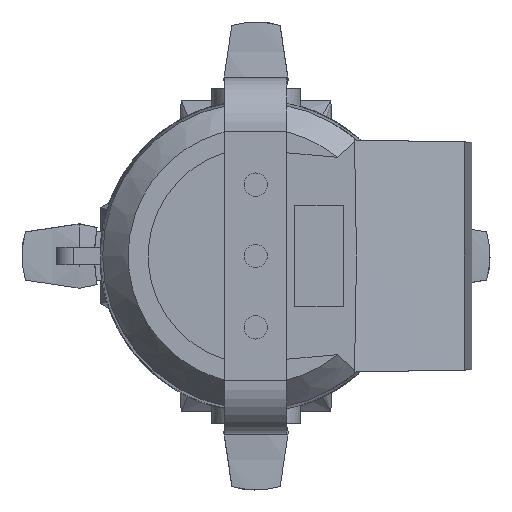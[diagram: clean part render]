
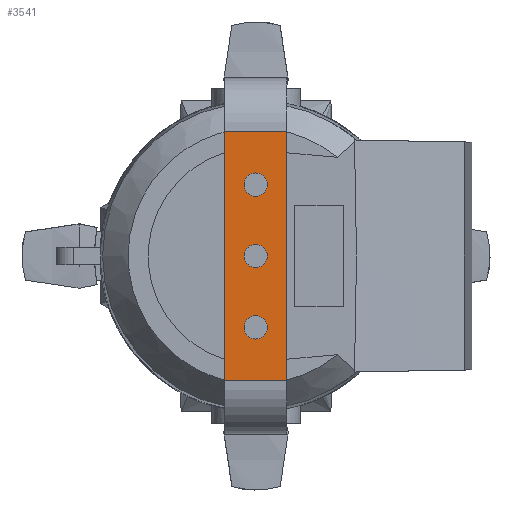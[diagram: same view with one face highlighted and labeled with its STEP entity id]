
A CAD part, left-side view. The second image highlights one B-rep face of the part: STEP entity #3541.
In plain terms, the highlighted planar face has unit normal (-1, 0, 0) as drawn and (0, 0, -1) by its records, which use the part's own axes.
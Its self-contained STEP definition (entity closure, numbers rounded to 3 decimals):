
#222=FACE_BOUND('',#585,.T.);
#223=FACE_BOUND('',#586,.T.);
#224=FACE_BOUND('',#587,.T.);
#258=PLANE('',#3782);
#382=FACE_OUTER_BOUND('',#584,.T.);
#584=EDGE_LOOP('',(#2437,#2438,#2439,#2440));
#585=EDGE_LOOP('',(#2441,#2442));
#586=EDGE_LOOP('',(#2443,#2444));
#587=EDGE_LOOP('',(#2445,#2446));
#826=LINE('',#5148,#1107);
#828=LINE('',#5154,#1109);
#829=LINE('',#5156,#1110);
#830=LINE('',#5157,#1111);
#1107=VECTOR('',#4161,34.);
#1109=VECTOR('',#4167,10.);
#1110=VECTOR('',#4168,34.);
#1111=VECTOR('',#4169,10.);
#1390=CIRCLE('',#3783,6.5);
#1391=CIRCLE('',#3784,6.5);
#1392=CIRCLE('',#3785,6.5);
#1393=CIRCLE('',#3786,6.5);
#1394=CIRCLE('',#3787,6.5);
#1395=CIRCLE('',#3788,6.5);
#1520=VERTEX_POINT('',#5145);
#1521=VERTEX_POINT('',#5147);
#1523=VERTEX_POINT('',#5153);
#1524=VERTEX_POINT('',#5155);
#1525=VERTEX_POINT('',#5158);
#1526=VERTEX_POINT('',#5159);
#1527=VERTEX_POINT('',#5162);
#1528=VERTEX_POINT('',#5163);
#1529=VERTEX_POINT('',#5166);
#1530=VERTEX_POINT('',#5167);
#1889=EDGE_CURVE('',#1520,#1521,#826,.T.);
#1892=EDGE_CURVE('',#1520,#1523,#828,.T.);
#1893=EDGE_CURVE('',#1523,#1524,#829,.T.);
#1894=EDGE_CURVE('',#1521,#1524,#830,.T.);
#1895=EDGE_CURVE('',#1525,#1526,#1390,.T.);
#1896=EDGE_CURVE('',#1526,#1525,#1391,.T.);
#1897=EDGE_CURVE('',#1527,#1528,#1392,.T.);
#1898=EDGE_CURVE('',#1528,#1527,#1393,.T.);
#1899=EDGE_CURVE('',#1529,#1530,#1394,.T.);
#1900=EDGE_CURVE('',#1530,#1529,#1395,.T.);
#2437=ORIENTED_EDGE('',*,*,#1892,.T.);
#2438=ORIENTED_EDGE('',*,*,#1893,.T.);
#2439=ORIENTED_EDGE('',*,*,#1894,.F.);
#2440=ORIENTED_EDGE('',*,*,#1889,.F.);
#2441=ORIENTED_EDGE('',*,*,#1895,.F.);
#2442=ORIENTED_EDGE('',*,*,#1896,.F.);
#2443=ORIENTED_EDGE('',*,*,#1897,.F.);
#2444=ORIENTED_EDGE('',*,*,#1898,.F.);
#2445=ORIENTED_EDGE('',*,*,#1899,.F.);
#2446=ORIENTED_EDGE('',*,*,#1900,.F.);
#3541=ADVANCED_FACE('',(#382,#222,#223,#224),#258,.T.);
#3782=AXIS2_PLACEMENT_3D('',#5152,#4165,#4166);
#3783=AXIS2_PLACEMENT_3D('',#5160,#4170,#4171);
#3784=AXIS2_PLACEMENT_3D('',#5161,#4172,#4173);
#3785=AXIS2_PLACEMENT_3D('',#5164,#4174,#4175);
#3786=AXIS2_PLACEMENT_3D('',#5165,#4176,#4177);
#3787=AXIS2_PLACEMENT_3D('',#5168,#4178,#4179);
#3788=AXIS2_PLACEMENT_3D('',#5169,#4180,#4181);
#4161=DIRECTION('',(0.,1.,0.));
#4165=DIRECTION('center_axis',(0.,0.,-1.));
#4166=DIRECTION('ref_axis',(-1.,0.,0.));
#4167=DIRECTION('',(-1.,0.,0.));
#4168=DIRECTION('',(0.,1.,0.));
#4169=DIRECTION('',(-1.,0.,0.));
#4170=DIRECTION('center_axis',(0.,0.,-1.));
#4171=DIRECTION('ref_axis',(-1.,0.,0.));
#4172=DIRECTION('center_axis',(0.,0.,-1.));
#4173=DIRECTION('ref_axis',(-1.,0.,0.));
#4174=DIRECTION('center_axis',(0.,0.,-1.));
#4175=DIRECTION('ref_axis',(-1.,0.,0.));
#4176=DIRECTION('center_axis',(0.,0.,-1.));
#4177=DIRECTION('ref_axis',(-1.,0.,0.));
#4178=DIRECTION('center_axis',(0.,0.,-1.));
#4179=DIRECTION('ref_axis',(-1.,0.,0.));
#4180=DIRECTION('center_axis',(0.,0.,-1.));
#4181=DIRECTION('ref_axis',(-1.,0.,0.));
#5145=CARTESIAN_POINT('',(69.75,-17.5,-355.));
#5147=CARTESIAN_POINT('',(69.75,17.5,-355.));
#5148=CARTESIAN_POINT('',(69.75,-17.,-355.));
#5152=CARTESIAN_POINT('Origin',(69.75,-17.5,-355.));
#5153=CARTESIAN_POINT('',(-69.75,-17.5,-355.));
#5154=CARTESIAN_POINT('',(83.25,-17.5,-355.));
#5155=CARTESIAN_POINT('',(-69.75,17.5,-355.));
#5156=CARTESIAN_POINT('',(-69.75,-17.,-355.));
#5157=CARTESIAN_POINT('',(-9.546,17.5,-355.));
#5158=CARTESIAN_POINT('',(-6.5,0.,-355.));
#5159=CARTESIAN_POINT('',(6.5,0.,-355.));
#5160=CARTESIAN_POINT('Origin',(0.,0.,-355.));
#5161=CARTESIAN_POINT('Origin',(0.,0.,-355.));
#5162=CARTESIAN_POINT('',(-46.5,0.,-355.));
#5163=CARTESIAN_POINT('',(-33.5,0.,-355.));
#5164=CARTESIAN_POINT('Origin',(-40.,0.,-355.));
#5165=CARTESIAN_POINT('Origin',(-40.,0.,-355.));
#5166=CARTESIAN_POINT('',(33.5,0.,-355.));
#5167=CARTESIAN_POINT('',(46.5,0.,-355.));
#5168=CARTESIAN_POINT('Origin',(40.,0.,-355.));
#5169=CARTESIAN_POINT('Origin',(40.,0.,-355.));
